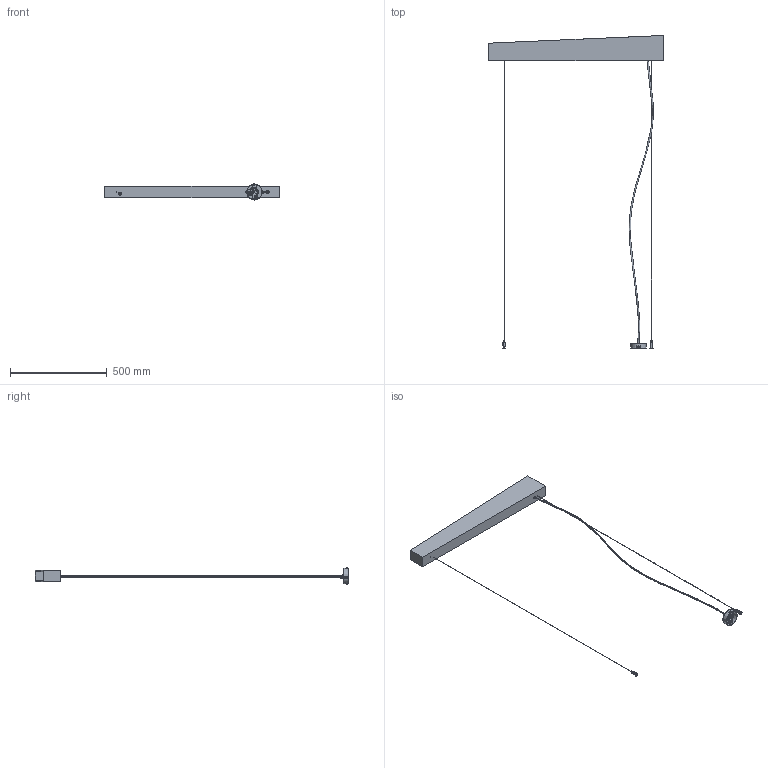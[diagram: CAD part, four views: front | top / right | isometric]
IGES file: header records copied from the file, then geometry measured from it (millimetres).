
Start section: SolidWorks IGES file using analytic representation for surfaces
Global section: file name: E:\3D lampy\Stone\Stone gray\Stone travertine_7014.IGS; native system: SolidWorks 2016; preprocessor: SolidWorks 2016; author: Asia; date: 161028.084037; units: millimetre
Bounding box: 900 x 1616.93 x 83.45 mm (x, y, z)
Surface area: 749153.3 mm2 (no closed solid volume)
Topology: 0 solids, 0 shells, 2479 faces, 25324 edges, 25314 vertices
Faces by surface type: bspline 1830, revolution 649
